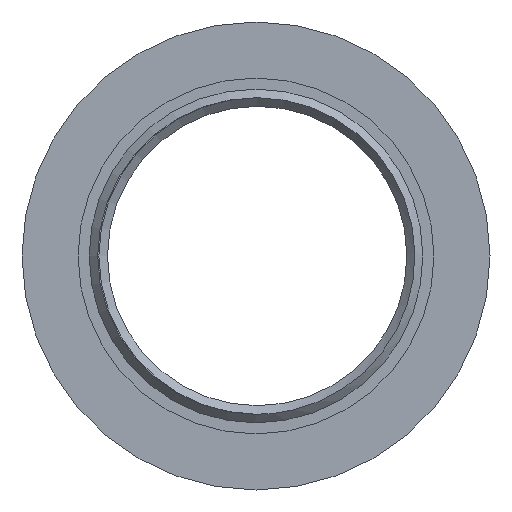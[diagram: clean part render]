
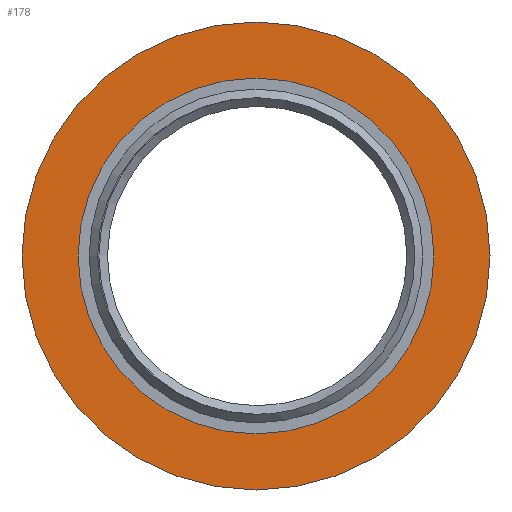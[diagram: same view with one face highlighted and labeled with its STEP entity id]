
A CAD part, left-side view. The second image highlights one B-rep face of the part: STEP entity #178.
In plain terms, the highlighted planar face has unit normal (-1, 0, 0).
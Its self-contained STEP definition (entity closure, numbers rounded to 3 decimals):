
#11 = AXIS2_PLACEMENT_3D ( 'NONE', #19, #20, #21 ) ;
#18 = PLANE ( 'NONE',  #11 ) ;
#19 = CARTESIAN_POINT ( 'NONE',  ( -9.08, 0.138, 0. ) ) ;
#20 = DIRECTION ( 'NONE',  ( 1., 0., 0. ) ) ;
#21 = DIRECTION ( 'NONE',  ( 0., 0., -1. ) ) ;
#30 = CIRCLE ( 'NONE', #1368, 20.8 ) ;
#31 = CIRCLE ( 'NONE', #1369, 27.35 ) ;
#79 = VERTEX_POINT ( 'NONE', #888 ) ;
#80 = VERTEX_POINT ( 'NONE', #889 ) ;
#161 = EDGE_LOOP ( 'NONE', ( #1525 ) ) ;
#178 = ADVANCED_FACE ( 'NONE', ( #1128, #1134 ), #18, .F. ) ;
#399 = EDGE_CURVE ( 'NONE', #79, #79, #30, .T. ) ;
#401 = EDGE_CURVE ( 'NONE', #80, #80, #31, .T. ) ;
#515 = CARTESIAN_POINT ( 'NONE',  ( -9.08, 0.138, 0. ) ) ;
#516 = DIRECTION ( 'NONE',  ( 1., 0., 0. ) ) ;
#517 = DIRECTION ( 'NONE',  ( 0., 0., -1. ) ) ;
#524 = CARTESIAN_POINT ( 'NONE',  ( -9.08, 0.138, 0. ) ) ;
#525 = DIRECTION ( 'NONE',  ( 1., 0., 0. ) ) ;
#526 = DIRECTION ( 'NONE',  ( 0., 0., -1. ) ) ;
#888 = CARTESIAN_POINT ( 'NONE',  ( -9.08, 0.138, -20.8 ) ) ;
#889 = CARTESIAN_POINT ( 'NONE',  ( -9.08, 0.138, -27.35 ) ) ;
#1128 = FACE_OUTER_BOUND ( 'NONE', #1536, .T. ) ;
#1134 = FACE_BOUND ( 'NONE', #161, .T. ) ;
#1368 = AXIS2_PLACEMENT_3D ( 'NONE', #515, #516, #517 ) ;
#1369 = AXIS2_PLACEMENT_3D ( 'NONE', #524, #525, #526 ) ;
#1524 = ORIENTED_EDGE ( 'NONE', *, *, #401, .F. ) ;
#1525 = ORIENTED_EDGE ( 'NONE', *, *, #399, .T. ) ;
#1536 = EDGE_LOOP ( 'NONE', ( #1524 ) ) ;
